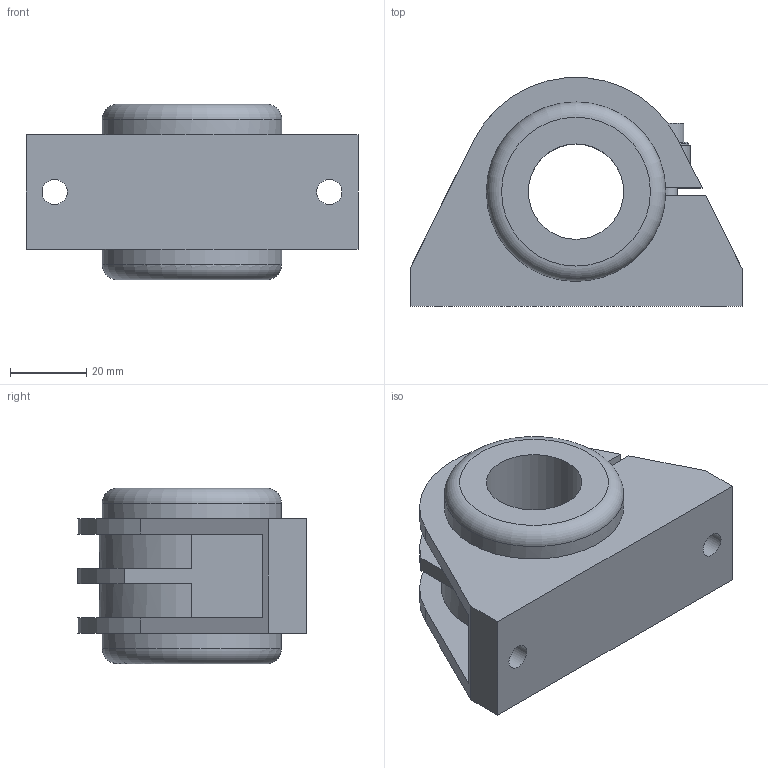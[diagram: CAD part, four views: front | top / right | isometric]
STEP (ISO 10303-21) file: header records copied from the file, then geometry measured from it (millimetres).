
FILE_DESCRIPTION(('STEP AP203'),'1');
FILE_NAME('//192.168.1.1/share/s-4 技術開発/s-4-4_CAD/s-4-4-3_見直し済み/008 修正済み/DLS/DLS_TOP/DLS-25.step','2022-02-18T05:47:44',(' '),(' '),'Spatial InterOp 3D',' ',' ');
FILE_SCHEMA(('CONFIG_CONTROL_DESIGN'));
Length unit declared in the file: millimetre
Products named in the file (1): 1
Bounding box: 87 x 59.9 x 46 mm (x, y, z)
Volume: 98859.9 mm3; surface area: 23956.6 mm2
Topology: 1 solids, 1 shells, 60 faces, 161 edges, 106 vertices
Faces by surface type: plane 41, cylinder 16, torus 2, cone 1
Full cylindrical faces by diameter (mm): 5 x1, 6.6 x2, 8.5 x1, 11 x1, 25 x1, 47 x2
Entity records: 1818 total; most frequent: CARTESIAN_POINT 309, DIRECTION 304, ORIENTED_EDGE 286, EDGE_CURVE 143, AXIS2_PLACEMENT_3D 102, LINE 100, VECTOR 100, VERTEX_POINT 99
